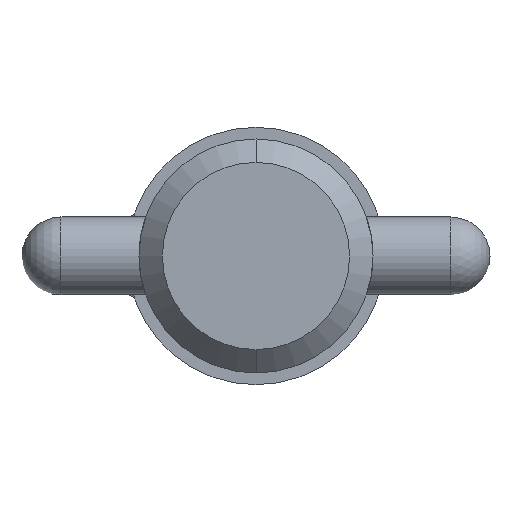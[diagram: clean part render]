
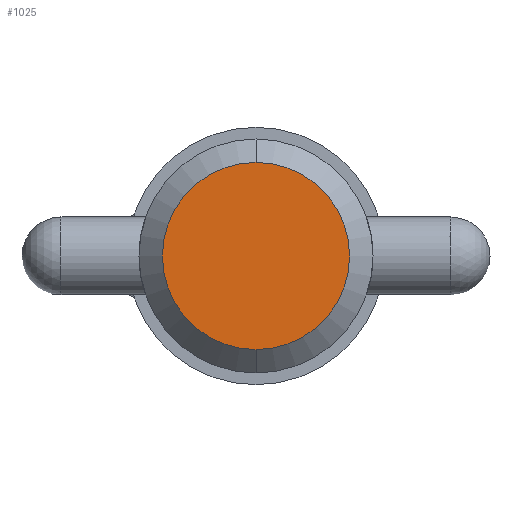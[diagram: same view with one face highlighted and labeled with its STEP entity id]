
A CAD part, left-side view. The second image highlights one B-rep face of the part: STEP entity #1025.
In plain terms, the highlighted planar face has unit normal (-1, 0, 0).
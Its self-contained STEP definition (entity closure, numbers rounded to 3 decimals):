
#47 = PLANE ( 'NONE',  #893 ) ;
#67 = EDGE_CURVE ( 'NONE', #125, #1032, #205, .T. ) ;
#125 = VERTEX_POINT ( 'NONE', #614 ) ;
#205 = CIRCLE ( 'NONE', #579, 7.62 ) ;
#237 = CARTESIAN_POINT ( 'NONE',  ( 0., 0., 0. ) ) ;
#246 = DIRECTION ( 'NONE',  ( 1., 0., 0. ) ) ;
#304 = DIRECTION ( 'NONE',  ( 0., 0., -1. ) ) ;
#316 = DIRECTION ( 'NONE',  ( -1., 0., 0. ) ) ;
#360 = ORIENTED_EDGE ( 'NONE', *, *, #474, .F. ) ;
#406 = AXIS2_PLACEMENT_3D ( 'NONE', #658, #246, #569 ) ;
#418 = FACE_OUTER_BOUND ( 'NONE', #535, .T. ) ;
#474 = EDGE_CURVE ( 'NONE', #1032, #125, #892, .T. ) ;
#535 = EDGE_LOOP ( 'NONE', ( #360, #931 ) ) ;
#564 = DIRECTION ( 'NONE',  ( 1., 0., 0. ) ) ;
#569 = DIRECTION ( 'NONE',  ( 0., 0., -1. ) ) ;
#579 = AXIS2_PLACEMENT_3D ( 'NONE', #237, #564, #304 ) ;
#614 = CARTESIAN_POINT ( 'NONE',  ( 0., 0., 7.62 ) ) ;
#658 = CARTESIAN_POINT ( 'NONE',  ( 0., 0., 0. ) ) ;
#781 = CARTESIAN_POINT ( 'NONE',  ( 0., 0., 0. ) ) ;
#802 = DIRECTION ( 'NONE',  ( 0., 0., 1. ) ) ;
#892 = CIRCLE ( 'NONE', #406, 7.62 ) ;
#893 = AXIS2_PLACEMENT_3D ( 'NONE', #781, #316, #802 ) ;
#931 = ORIENTED_EDGE ( 'NONE', *, *, #67, .F. ) ;
#981 = CARTESIAN_POINT ( 'NONE',  ( 0., 0., -7.62 ) ) ;
#1025 = ADVANCED_FACE ( 'NONE', ( #418 ), #47, .T. ) ;
#1032 = VERTEX_POINT ( 'NONE', #981 ) ;
